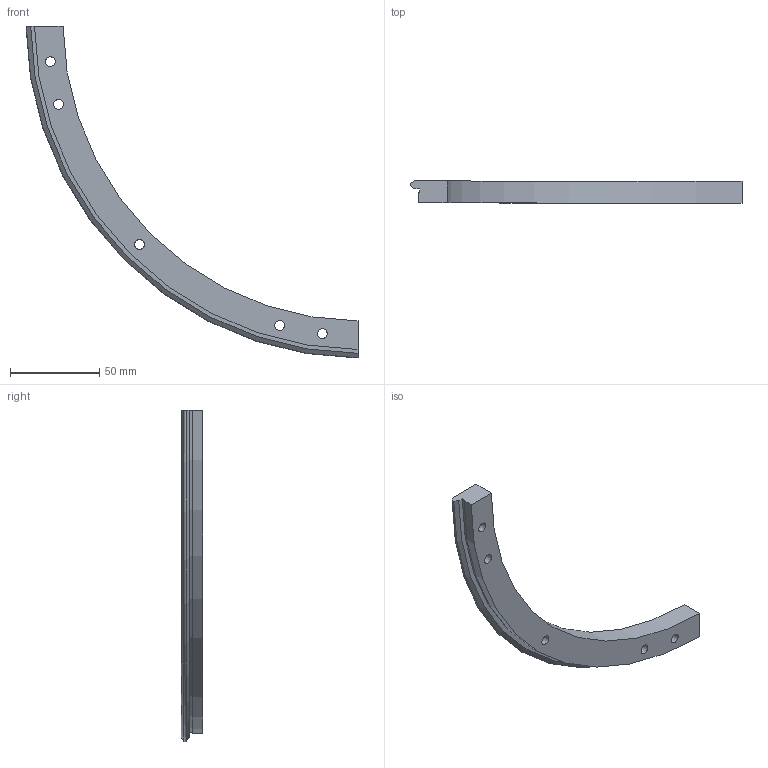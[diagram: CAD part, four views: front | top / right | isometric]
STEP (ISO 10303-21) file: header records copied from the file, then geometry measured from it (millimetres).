
FILE_DESCRIPTION( ( 'STEP AP203' ), '1' );
FILE_NAME( 'p:/temp/worker_29/temp/exporttempdir_2736_518_aXEvh/format_0/TRES 376 R90 .stp', '2021-09-17T07:48:01', ( 'License CC BY-ND 4.0' ), ( 'CADENAS' ), ' ', 'PARTsolutions', ' ' );
FILE_SCHEMA( ( 'CONFIG_CONTROL_DESIGN' ) );
Length unit declared in the file: millimetre
Products named in the file (1): _TRES 376 R90  
Bounding box: 186.3 x 12.25 x 186.3 mm (x, y, z)
Volume: 54861.3 mm3; surface area: 19335.7 mm2
Topology: 1 solids, 1 shells, 27 faces, 60 edges, 40 vertices
Faces by surface type: cylinder 13, plane 11, cone 2, torus 1
Full cylindrical faces by diameter (mm): 5.5 x5, 10 x5
Entity records: 796 total; most frequent: CARTESIAN_POINT 148, DIRECTION 130, ORIENTED_EDGE 100, AXIS2_PLACEMENT_3D 58, EDGE_LOOP 52, EDGE_CURVE 50, VERTEX_POINT 40, FACE_OUTER_BOUND 37
